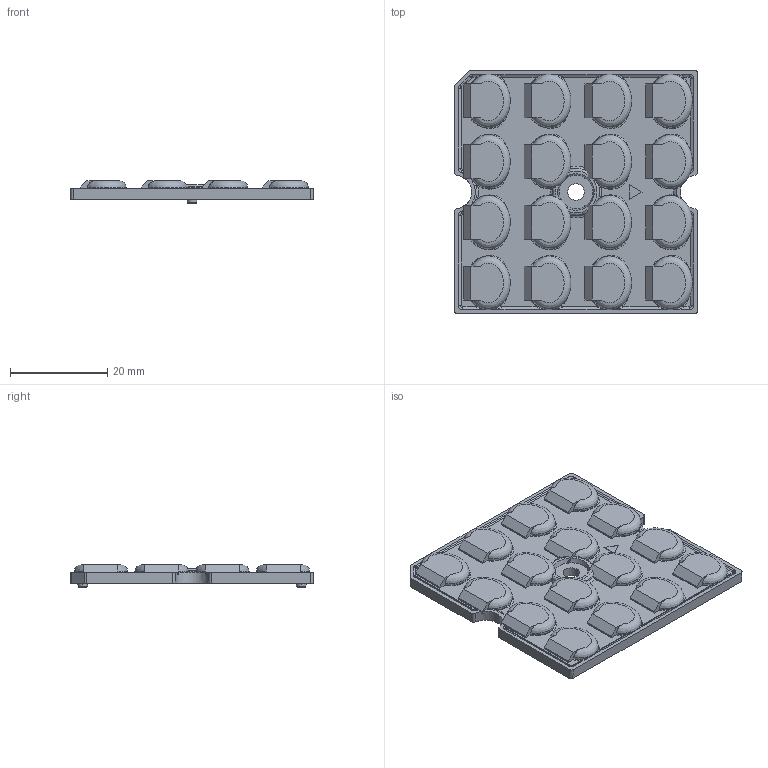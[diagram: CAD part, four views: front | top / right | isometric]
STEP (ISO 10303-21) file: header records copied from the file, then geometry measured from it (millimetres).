
FILE_DESCRIPTION(('CAx-IF Rec.Pracs.---Model Styling and Organization---1.2---2011-12-15','CAx-IF Rec.Pracs.---Geometric and Assembly Validation Properties---4.1---2014-06-16','CAx-IF Rec.Pracs.---PMI Polyline Presentation---2.0---2013-05-24'),'2;1');
FILE_NAME('022YR02Y09.stp','2020-09-09T07:51:12+02:00',(''),(''),'STEP Interface 4.3 by CT CoreTechnologie','3D_Evolution4.3 by CT CoreTechnologie','');
FILE_SCHEMA(('AP203_CONFIGURATION_CONTROLLED_3D_DESIGN_OF_MECHANICAL_PARTS_AND_ASSEMBLIES_MIM_LF'));
Length unit declared in the file: millimetre
Products named in the file (1): 022YR02Y09
Bounding box: 50 x 50 x 4.63 mm (x, y, z)
Volume: 6407.3 mm3; surface area: 6641.9 mm2
Topology: 1 solids, 1 shells, 847 faces, 2326 edges, 1525 vertices
Faces by surface type: plane 370, bspline 316, cylinder 161
Entity records: 103210 total; most frequent: CARTESIAN_POINT 46409, PROPERTY_DEFINITION 5096, ORIENTED_EDGE 4618, DIRECTION 3793, SHAPE_REPRESENTATION 2549, SHAPE_DEFINITION_REPRESENTATION 2549, REPRESENTATION 2548, SHAPE_ASPECT 2548
